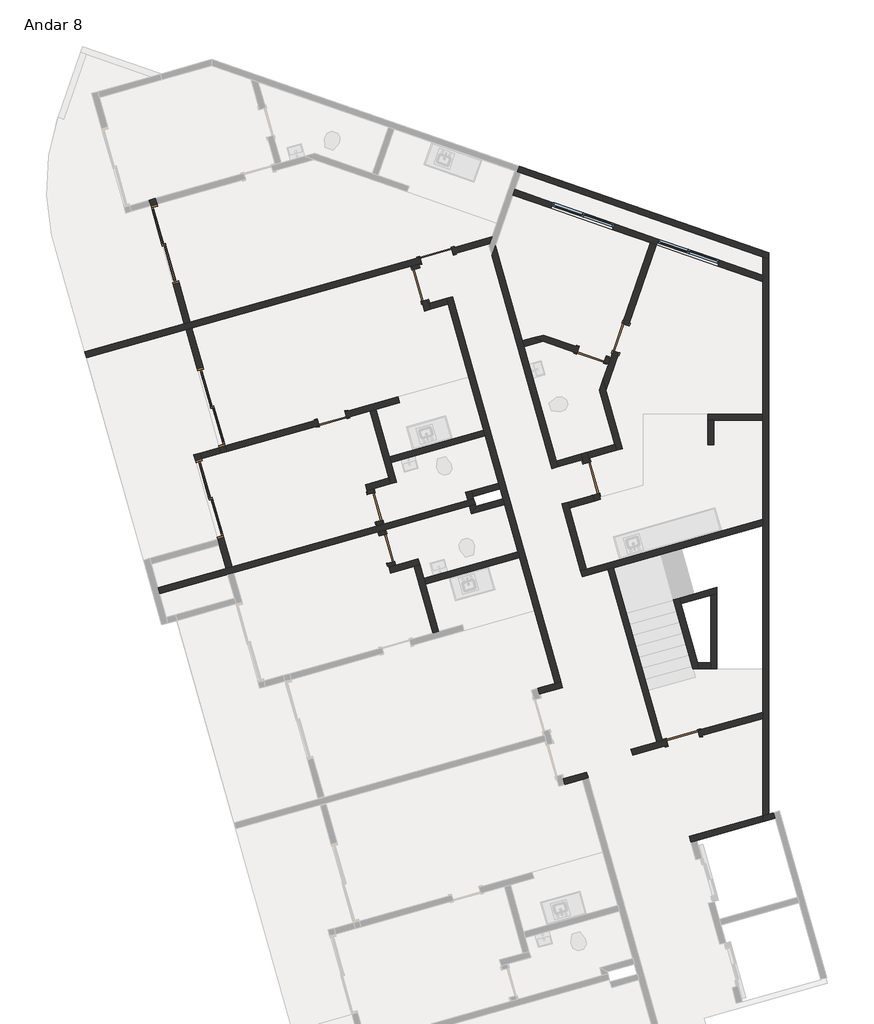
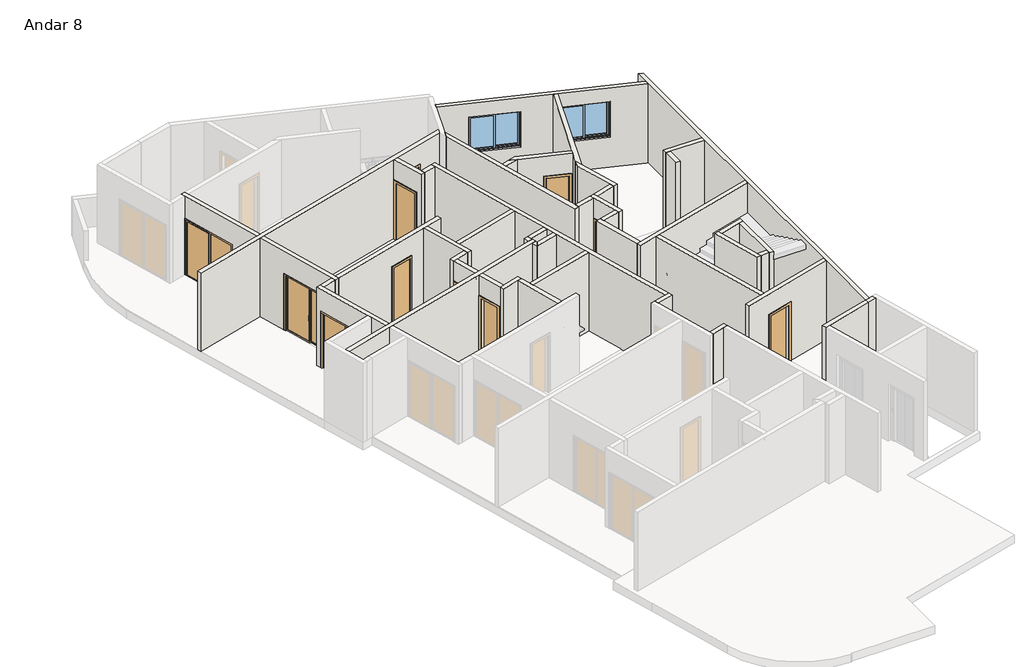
# One storey, part 2 of 3: 48 walls, 12 doors, 2 windows.
"""IFC4 building model written with IfcOpenShell, lengths in millimetres."""

from ifc_helpers import new_model, si_unit, frame, origin, place, context, project, spatial, polyline, outline, extrude, faceted_brep, transform, mapped, element, save
from components import p2_80cm_9d4be4ef, p2_80cm_083652d6, p3_70cm_ef4d15e3, p3_70cm_0a698c7c, p4_correr_200cm_eaaa0877, jx_160cm_e9e36a0c

model = new_model("IFC4")

# Units and contexts
model_context = context("Model", 3, world=origin())
ifc_project = project(units=[si_unit("LENGTHUNIT", "METRE", prefix="MILLI")], contexts=[model_context])

# Site, building, storey
site = spatial("IfcSite", under=ifc_project)
building = spatial("IfcBuilding", under=site)
storey = spatial("IfcBuildingStorey", under=building, Name="Andar 8", Elevation=73950.0)

# Doors
placement = place(None, origin())
p2_80cm_shape = p2_80cm_9d4be4ef(model_context)
element("IfcDoor", 1, ObjectType="M_Folha única1 : P2 - 80CM", at=placement, inside=storey, context=model_context, shape_type="MappedRepresentation", body=[
    mapped(p2_80cm_shape, transform((-83145.1128896, 30941.0402894, 73950.0), x_axis=(-0.9623628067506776, -0.2717679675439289, 0.0), y_axis=(0.2717679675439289, -0.9623628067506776, 0.0), z_axis=(0.0, 0.0, 1.0))),
])
element("IfcDoor", 2, ObjectType="M_Folha única1 : P2 - 80CM", at=placement, inside=storey, context=model_context, shape_type="MappedRepresentation", body=[
    mapped(p2_80cm_shape, transform((-79349.4097406, 25479.1041247, 73950.0), x_axis=(-0.27176796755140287, 0.962362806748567, 0.0), y_axis=(-0.962362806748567, -0.27176796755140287, 0.0), z_axis=(0.0, 0.0, 1.0))),
])
p2_80cm_2_shape = p2_80cm_083652d6(model_context)
element("IfcDoor", 3, ObjectType="M_Folha única1 : P2 - 80CM", at=placement, inside=storey, context=model_context, shape_type="MappedRepresentation", body=[
    mapped(p2_80cm_2_shape, transform((-83542.2049222, 30231.4150941, 73950.0), x_axis=(-0.2717679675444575, 0.9623628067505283, 0.0), y_axis=(-0.9623628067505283, -0.2717679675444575, 0.0), z_axis=(0.0, 0.0, 1.0))),
])
p3_70cm_shape = p3_70cm_ef4d15e3(model_context)
element("IfcDoor", 4, ObjectType="M_Folha única1 : P3 - 70CM", at=placement, inside=storey, context=model_context, shape_type="MappedRepresentation", body=[
    mapped(p3_70cm_shape, transform((-84650.97864, 24774.7108835, 73950.0), x_axis=(0.2717679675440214, -0.9623628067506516, 0.0), y_axis=(0.9623628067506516, 0.2717679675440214, 0.0), z_axis=(0.0, 0.0, 1.0))),
])
p3_70cm_2_shape = p3_70cm_0a698c7c(model_context)
element("IfcDoor", 5, ObjectType="M_Folha única1 : P3 - 70CM", at=placement, inside=storey, context=model_context, shape_type="MappedRepresentation", body=[
    mapped(p3_70cm_2_shape, transform((-84365.6222741, 23764.2299364, 73950.0), x_axis=(-0.2717679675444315, 0.9623628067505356, 0.0), y_axis=(-0.9623628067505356, -0.2717679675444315, 0.0), z_axis=(0.0, 0.0, 1.0))),
])
element("IfcDoor", 6, ObjectType="M_Folha única1 : P3 - 70CM", at=placement, inside=storey, context=model_context, shape_type="MappedRepresentation", body=[
    mapped(p3_70cm_2_shape, transform((-85705.4317558, 26944.8211633, 73950.0), x_axis=(0.9623628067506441, 0.2717679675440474, 0.0), y_axis=(-0.2717679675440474, 0.9623628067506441, 0.0), z_axis=(0.0, 0.0, 1.0))),
])
element("IfcDoor", 7, ObjectType="M_Folha única1 : P3 - 70CM", at=placement, inside=storey, context=model_context, shape_type="MappedRepresentation", body=[
    mapped(p3_70cm_2_shape, transform((-79346.1223746, 28509.6973665, 73950.0), x_axis=(0.9449109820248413, -0.32732741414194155, 0.0), y_axis=(0.32732741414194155, 0.9449109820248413, 0.0), z_axis=(0.0, 0.0, 1.0))),
])
element("IfcDoor", 8, ObjectType="M_Folha única1 : P3 - 70CM", at=placement, inside=storey, context=model_context, shape_type="MappedRepresentation", body=[
    mapped(p3_70cm_2_shape, transform((-78626.5662556, 28921.8732895, 73950.0), x_axis=(-0.32732741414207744, -0.9449109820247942, 0.0), y_axis=(0.9449109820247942, -0.32732741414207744, 0.0), z_axis=(0.0, 0.0, 1.0))),
])
p4_correr_200cm_shape = p4_correr_200cm_eaaa0877(model_context)
element("IfcDoor", 9, ObjectType="Porta de correr dupla envidraçada sem revestimento : P4 - CORRER - 200CM", at=placement, inside=storey, context=model_context, shape_type="MappedRepresentation", body=[
    mapped(p4_correr_200cm_shape, transform((-89799.7974026, 31217.9316171, 73950.0), x_axis=(0.27176796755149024, -0.9623628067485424, 0.0), y_axis=(0.9623628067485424, 0.27176796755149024, 0.0), z_axis=(0.0, 0.0, 1.0))),
])
element("IfcDoor", 10, ObjectType="Porta de correr dupla envidraçada sem revestimento : P4 - CORRER - 200CM", at=placement, inside=storey, context=model_context, shape_type="MappedRepresentation", body=[
    mapped(p4_correr_200cm_shape, transform((-88671.9603372, 27224.125969, 73950.0), x_axis=(-0.27176796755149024, 0.9623628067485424, 0.0), y_axis=(-0.9623628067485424, -0.27176796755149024, 0.0), z_axis=(0.0, 0.0, 1.0))),
])
element("IfcDoor", 11, ObjectType="Porta de correr dupla envidraçada sem revestimento : P4 - CORRER - 200CM", at=placement, inside=storey, context=model_context, shape_type="MappedRepresentation", body=[
    mapped(p4_correr_200cm_shape, transform((-88709.3738038, 24979.4758572, 73950.0), x_axis=(-0.2717679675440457, 0.9623628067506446, 0.0), y_axis=(-0.9623628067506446, -0.2717679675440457, 0.0), z_axis=(0.0, 0.0, 1.0))),
])
element("IfcDoor", 12, ObjectType="M_Folha única1 : PCF1 - 80CM", at=placement, inside=storey, context=model_context, shape_type="MappedRepresentation", body=[
    mapped(p2_80cm_shape, transform((-77103.5502958, 19127.1105693, 73950.0), x_axis=(-0.9623628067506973, -0.2717679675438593, 0.0), y_axis=(0.2717679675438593, -0.9623628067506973, 0.0), z_axis=(0.0, 0.0, 1.0))),
])

# Walls
element("IfcWall", 13, ObjectType="Básica .15 -  Interna", at=placement, inside=storey, context=model_context, shape_type="Brep", body=[
    faceted_brep([(-82901.0804648, 29892.9118737, 73950.0), (-82860.3152697, 29748.5574527, 73950.0), (-81990.6577736, 26668.9964711, 73950.0), (-81949.8925784, 26524.6420501, 73950.0), (-81623.7710174, 25369.806682, 73950.0), (-81583.0058223, 25225.452261, 73950.0), (-81515.0638304, 24984.8615593, 73950.0), (-81474.2986352, 24840.5071383, 73950.0), (-81148.1770742, 23685.6717702, 73950.0), (-81107.4118791, 23541.3173492, 73950.0), (-80237.7543829, 20461.7563676, 73950.0), (-80237.7543829, 20461.7563676, 76850.0), (-81107.4118791, 23541.3173492, 76850.0), (-81148.1770742, 23685.6717702, 76850.0), (-81474.2986352, 24840.5071383, 76850.0), (-81515.0638304, 24984.8615593, 76850.0), (-81583.0058223, 25225.452261, 76850.0), (-81623.7710174, 25369.806682, 76850.0), (-81949.8925784, 26524.6420501, 76850.0), (-81990.6577736, 26668.9964711, 76850.0), (-82860.3152697, 29748.5574527, 76850.0), (-82901.0804648, 29892.9118737, 76850.0), (-82756.7260438, 29933.6770689, 73950.0), (-82756.7260438, 29933.6770689, 76850.0), (-80093.3999619, 20502.5215627, 76850.0), (-80093.3999619, 20502.5215627, 73950.0)], [[[0, 1, 2, 3, 4, 5, 6, 7, 8, 9, 10, 11, 12, 13, 14, 15, 16, 17, 18, 19, 20, 21]], [[22, 23, 24, 25]], [[10, 9, 8, 7, 6, 5, 4, 3, 2, 1, 0, 22, 25]], [[21, 20, 19, 18, 17, 16, 15, 14, 13, 12, 11, 24, 23]], [[0, 21, 23, 22]], [[11, 10, 25, 24]]]),
])
element("IfcWall", 14, ObjectType="Básica .15 -  Interna", at=placement, inside=storey, context=model_context, shape_type="Brep", body=[
    faceted_brep([(-83750.2661164, 30692.2138999, 73950.0), (-83723.0893197, 30595.9776193, 73950.0), (-83723.0893197, 30595.9776193, 76050.0), (-83505.6749457, 29826.0873739, 76050.0), (-83505.6749457, 29826.0873739, 73950.0), (-83437.7329538, 29585.4966722, 73950.0), (-83437.7329538, 29585.4966722, 76850.0), (-83750.2661164, 30692.2138999, 76850.0), (-83578.7348987, 30636.7428144, 76050.0), (-83578.7348987, 30636.7428144, 73950.0), (-83605.9116954, 30732.9790951, 73950.0), (-83605.9116954, 30732.9790951, 76850.0), (-83334.1437279, 29770.6162883, 76850.0), (-83293.3785328, 29626.2618673, 76850.0), (-83293.3785328, 29626.2618673, 73950.0), (-83334.1437279, 29770.6162883, 73950.0), (-83361.3205246, 29866.852569, 73950.0), (-83361.3205246, 29866.852569, 76050.0)], [[[0, 1, 2, 3, 4, 5, 6, 7]], [[8, 9, 10, 11, 12, 13, 14, 15, 16, 17]], [[10, 9, 1, 0]], [[16, 15, 14, 5, 4]], [[7, 6, 13, 12, 11]], [[6, 5, 14, 13]], [[0, 7, 11, 10]], [[2, 1, 9, 8]], [[3, 2, 8, 17]], [[4, 3, 17, 16]]]),
])
element("IfcWall", 15, ObjectType="Básica .15 -  Interna", at=placement, inside=storey, context=model_context, shape_type="SweptSolid", body=[
    extrude(outline(polyline([(-82860.3152697, 29748.5574527), (-83293.3785328, 29626.2618673), (-83334.1437279, 29770.6162883), (-82901.0804648, 29892.9118737), (-82860.3152697, 29748.5574527)])), frame((0.0, 0.0, 73950.0), z_axis=(0.0, 0.0, 1.0), x_axis=(1.0, 0.0, 0.0)), (0.0, 0.0, 1.0), 2900.0),
])
element("IfcWall", 16, ObjectType="Básica .15 -  Interna", at=placement, inside=storey, context=model_context, shape_type="Brep", body=[
    faceted_brep([(-80093.3999619, 20502.5215627, 73950.0), (-80237.7543829, 20461.7563676, 73950.0), (-80670.817646, 20339.4607822, 73950.0), (-80670.817646, 20339.4607822, 76850.0), (-80237.7543829, 20461.7563676, 76850.0), (-80093.3999619, 20502.5215627, 76850.0), (-80052.6347668, 20358.1671417, 73950.0), (-80052.6347668, 20358.1671417, 76850.0), (-80630.0524508, 20195.1063612, 76850.0), (-80630.0524508, 20195.1063612, 73950.0)], [[[0, 1, 2, 3, 4, 5]], [[6, 7, 8, 9]], [[2, 1, 0, 6, 9]], [[5, 4, 3, 8, 7]], [[3, 2, 9, 8]], [[0, 5, 7, 6]]]),
])
element("IfcWall", 17, ObjectType="Básica .15 -  Interna", at=placement, inside=storey, context=model_context, shape_type="Brep", body=[
    faceted_brep([(-80004.9861255, 17981.6719056, 73950.0), (-79571.9228624, 18103.967491, 73950.0), (-79427.5684414, 18144.7326862, 73950.0), (-79427.5684414, 18144.7326862, 76850.0), (-79571.9228624, 18103.967491, 76850.0), (-80004.9861255, 17981.6719056, 76850.0), (-80045.7513206, 18126.0263266, 73950.0), (-80045.7513206, 18126.0263266, 76850.0), (-79468.3336366, 18289.0871072, 76850.0), (-79468.3336366, 18289.0871072, 73950.0)], [[[0, 1, 2, 3, 4, 5]], [[6, 7, 8, 9]], [[2, 1, 0, 6, 9]], [[5, 4, 3, 8, 7]], [[3, 2, 9, 8]], [[0, 5, 7, 6]]]),
])
element("IfcWall", 18, ObjectType="Básica .15 -  Interna", at=placement, inside=storey, context=model_context, shape_type="Brep", body=[
    faceted_brep([(-88305.9570711, 23274.9583478, 76850.0), (-88469.0178517, 23852.3760319, 76850.0), (-88509.7830468, 23996.7304529, 76850.0), (-89094.084177, 26065.8104874, 76850.0), (-89094.084177, 26065.8104874, 73950.0), (-89053.3189819, 25921.4560664, 73950.0), (-89053.3189819, 25921.4560664, 76050.0), (-88509.7830468, 23996.7304529, 76050.0), (-88509.7830468, 23996.7304529, 73950.0), (-88469.0178517, 23852.3760319, 73950.0), (-88305.9570711, 23274.9583478, 73950.0), (-88949.729756, 26106.5756825, 76850.0), (-88908.9645609, 25962.2212615, 76850.0), (-88161.6026501, 23315.723543, 76850.0), (-88161.6026501, 23315.723543, 73950.0), (-88365.4286258, 24037.495648, 73950.0), (-88365.4286258, 24037.495648, 76050.0), (-88908.9645609, 25962.2212615, 76050.0), (-88908.9645609, 25962.2212615, 73950.0), (-88949.729756, 26106.5756825, 73950.0)], [[[0, 1, 2, 3, 4, 5, 6, 7, 8, 9, 10]], [[11, 12, 13, 14, 15, 16, 17, 18, 19]], [[4, 19, 18, 5]], [[14, 10, 9, 8, 15]], [[3, 2, 1, 0, 13, 12, 11]], [[4, 3, 11, 19]], [[0, 10, 14, 13]], [[17, 6, 5, 18]], [[6, 17, 16, 7]], [[7, 16, 15, 8]]]),
])
element("IfcWall", 19, ObjectType="Básica .15 -  Interna", at=placement, inside=storey, context=model_context, shape_type="Brep", body=[
    faceted_brep([(-89143.3190618, 29169.2341801, 76850.0), (-88328.0151592, 26282.1457598, 76850.0), (-88287.249964, 26137.7913388, 76850.0), (-88287.249964, 26137.7913388, 73950.0), (-88328.0151592, 26282.1457598, 73950.0), (-88328.0151592, 26282.1457598, 76050.0), (-88871.5510943, 28206.8713733, 76050.0), (-88871.5510943, 28206.8713733, 73950.0), (-89143.3190618, 29169.2341801, 73950.0), (-88431.604385, 26097.0261437, 76850.0), (-88472.3695802, 26241.3805647, 76850.0), (-89287.6734828, 29128.468985, 76850.0), (-89287.6734828, 29128.468985, 73950.0), (-89015.9055153, 28166.1061782, 73950.0), (-89015.9055153, 28166.1061782, 76050.0), (-88472.3695802, 26241.3805647, 76050.0), (-88472.3695802, 26241.3805647, 73950.0), (-88431.604385, 26097.0261437, 73950.0)], [[[0, 1, 2, 3, 4, 5, 6, 7, 8]], [[9, 10, 11, 12, 13, 14, 15, 16, 17]], [[3, 17, 16, 4]], [[12, 8, 7, 13]], [[2, 1, 0, 11, 10, 9]], [[3, 2, 9, 17]], [[0, 8, 12, 11]], [[6, 14, 13, 7]], [[14, 6, 5, 15]], [[15, 5, 4, 16]]]),
])
element("IfcWall", 20, ObjectType="Básica .15 -  Interna", at=placement, inside=storey, context=model_context, shape_type="Brep", body=[
    faceted_brep([(-76904.7538909, 16570.3643175, 73950.0), (-76760.3994699, 16611.1295126, 73950.0), (-75147.8282189, 17066.5141226, 73950.0), (-75147.8282189, 17066.5141226, 76850.0), (-76760.3994699, 16611.1295126, 76850.0), (-76904.7538909, 16570.3643175, 76850.0), (-76945.5190861, 16714.7187385, 73950.0), (-76945.5190861, 16714.7187385, 76850.0), (-75147.8282189, 17222.3804954, 76850.0), (-75147.8282189, 17222.3804954, 73950.0)], [[[0, 1, 2, 3, 4, 5]], [[6, 7, 8, 9]], [[2, 1, 0, 6, 9]], [[5, 4, 3, 8, 7]], [[0, 5, 7, 6]], [[3, 2, 9, 8]]]),
])
element("IfcWall", 21, ObjectType="Básica .15 -  Interna", at=placement, inside=storey, context=model_context, shape_type="Brep", body=[
    faceted_brep([(-79570.9048554, 23078.5590693, 73950.0), (-78948.2127609, 23254.4051886, 73950.0), (-78803.8582924, 23295.1703972, 73950.0), (-75147.8282189, 24327.6207947, 73950.0), (-75147.8282189, 24327.6207947, 76850.0), (-78803.8582924, 23295.1703972, 76850.0), (-78948.2127609, 23254.4051886, 76850.0), (-79570.9048554, 23078.5590693, 76850.0), (-79611.6700506, 23222.9134903, 73950.0), (-79611.6700506, 23222.9134903, 76850.0), (-79467.3156296, 23263.6786855, 76850.0), (-75147.8282189, 24483.4871675, 76850.0), (-75147.8282189, 24483.4871675, 73950.0), (-79467.3156296, 23263.6786855, 73950.0)], [[[0, 1, 2, 3, 4, 5, 6, 7]], [[8, 9, 10, 11, 12, 13]], [[3, 2, 1, 0, 8, 13, 12]], [[7, 6, 5, 4, 11, 10, 9]], [[0, 7, 9, 8]], [[4, 3, 12, 11]]]),
])
element("IfcWall", 22, ObjectType="Básica .15 -  Interna", at=placement, inside=storey, context=model_context, shape_type="SweptSolid", body=[
    extrude(outline(polyline([(-77749.4687652, 19022.6385875), (-78948.2127609, 23254.4051886), (-78803.8582924, 23295.1703972), (-77605.1142967, 19063.4037961), (-77749.4687652, 19022.6385875)])), frame((0.0, 0.0, 73950.0), z_axis=(0.0, 0.0, 1.0), x_axis=(1.0, 0.0, 0.0)), (0.0, 0.0, 1.0), 2900.0),
])
element("IfcWall", 23, ObjectType="Básica .15 -  Interna", at=placement, inside=storey, context=model_context, shape_type="Brep", body=[
    faceted_brep([(-77508.878016, 19090.5805928, 76050.0), (-77508.878016, 19090.5805928, 73950.0), (-77605.1142967, 19063.4037961, 73950.0), (-77749.4687652, 19022.6385875, 73950.0), (-78375.5945972, 18845.8227925, 73950.0), (-78375.5945972, 18845.8227925, 76850.0), (-77749.4687652, 19022.6385875, 76850.0), (-77605.1142967, 19063.4037961, 76850.0), (-75147.8282189, 19757.3329862, 76850.0), (-75147.8282189, 19757.3329862, 73950.0), (-76738.9877706, 19307.9949669, 73950.0), (-76738.9877706, 19307.9949669, 76050.0), (-78334.829402, 18701.4683715, 73950.0), (-77468.1128209, 18946.2261718, 73950.0), (-77468.1128209, 18946.2261718, 76050.0), (-76698.2225755, 19163.6405459, 76050.0), (-76698.2225755, 19163.6405459, 73950.0), (-75147.8282189, 19601.4666134, 73950.0), (-75147.8282189, 19601.4666134, 76850.0), (-78334.829402, 18701.4683715, 76850.0)], [[[0, 1, 2, 3, 4, 5, 6, 7, 8, 9, 10, 11]], [[12, 13, 14, 15, 16, 17, 18, 19]], [[10, 9, 17, 16]], [[4, 3, 2, 1, 13, 12]], [[5, 4, 12, 19]], [[8, 7, 6, 5, 19, 18]], [[14, 13, 1, 0]], [[15, 14, 0, 11]], [[16, 15, 11, 10]], [[9, 8, 18, 17]]]),
])
element("IfcWall", 24, ObjectType="Básica .15 - Externa", at=placement, inside=storey, context=model_context, shape_type="Brep", body=[
    faceted_brep([(-75147.8282189, 30909.9128092, 76850.0), (-75147.8282189, 30909.9128092, 73950.0), (-75147.8282189, 30461.6117638, 73950.0), (-75147.8282189, 30302.8666514, 73950.0), (-75147.8282189, 27060.8243598, 73950.0), (-75147.8282189, 26910.8243598, 73950.0), (-75147.8282189, 24483.4871675, 73950.0), (-75147.8282189, 24327.6207947, 73950.0), (-75147.8282189, 19757.3329862, 73950.0), (-75147.8282189, 19601.4666134, 73950.0), (-75147.8282189, 17222.3804954, 73950.0), (-75147.8282189, 17222.3804954, 76850.0), (-75147.8282189, 19601.4666134, 76850.0), (-75147.8282189, 19757.3329862, 76850.0), (-75147.8282189, 24327.6207947, 76850.0), (-75147.8282189, 24483.4871675, 76850.0), (-75147.8282189, 26910.8243598, 76850.0), (-75147.8282189, 27060.8243598, 76850.0), (-75147.8282189, 30302.8666514, 76850.0), (-75147.8282189, 30461.6117638, 76850.0), (-74997.8282189, 30857.9511821, 73950.0), (-74997.8282189, 30857.9511821, 75250.0), (-74997.8282189, 30857.9511821, 76550.0), (-74997.8282189, 30857.9511821, 76850.0), (-74997.8282189, 17264.7399828, 76850.0), (-74997.8282189, 17264.7399828, 73950.0)], [[[0, 1, 2, 3, 4, 5, 6, 7, 8, 9, 10, 11, 12, 13, 14, 15, 16, 17, 18, 19]], [[20, 21, 22, 23, 24, 25]], [[10, 9, 8, 7, 6, 5, 4, 3, 2, 1, 20, 25]], [[0, 19, 18, 17, 16, 15, 14, 13, 12, 11, 24, 23]], [[11, 10, 25, 24]], [[0, 23, 22, 21, 20, 1]]]),
])
element("IfcWall", 25, ObjectType="Básica .15 -  Interna", at=placement, inside=storey, context=model_context, shape_type="Brep", body=[
    faceted_brep([(-80073.6755954, 24858.9302618, 73950.0), (-79611.6700506, 23222.9134903, 73950.0), (-79611.6700506, 23222.9134903, 76850.0), (-80073.6755954, 24858.9302618, 76850.0), (-79929.3211744, 24899.695457, 73950.0), (-79929.3211744, 24899.695457, 76850.0), (-79888.5559793, 24755.3410359, 76850.0), (-79467.3156296, 23263.6786855, 76850.0), (-79467.3156296, 23263.6786855, 73950.0), (-79888.5559793, 24755.3410359, 73950.0)], [[[0, 1, 2, 3]], [[4, 5, 6, 7, 8, 9]], [[1, 0, 4, 9, 8]], [[3, 2, 7, 6, 5]], [[0, 3, 5, 4]], [[2, 1, 8, 7]]]),
])
element("IfcWall", 26, ObjectType="Básica .15 -  Interna", at=placement, inside=storey, context=model_context, shape_type="Brep", body=[
    faceted_brep([(-79888.5559793, 24755.3410359, 73950.0), (-79272.1145689, 24929.4219834, 73950.0), (-79272.1145689, 24929.4219834, 76850.0), (-79888.5559793, 24755.3410359, 76850.0), (-79929.3211744, 24899.695457, 73950.0), (-79929.3211744, 24899.695457, 76850.0), (-79312.8797641, 25073.7764044, 76850.0), (-79312.8797641, 25073.7764044, 76050.0), (-79312.8797641, 25073.7764044, 73950.0)], [[[0, 1, 2, 3]], [[4, 5, 6, 7, 8]], [[1, 0, 4, 8]], [[3, 2, 6, 5]], [[0, 3, 5, 4]], [[2, 1, 8, 7, 6]]]),
])
element("IfcWall", 27, ObjectType="Básica .15 -  Interna", at=placement, inside=storey, context=model_context, shape_type="Brep", body=[
    faceted_brep([(-79598.23613, 26084.2573515, 73950.0), (-79557.4709349, 25939.9029305, 73950.0), (-79530.2941381, 25843.6666498, 73950.0), (-79530.2941381, 25843.6666498, 76050.0), (-79312.8797641, 25073.7764044, 76050.0), (-79312.8797641, 25073.7764044, 73950.0), (-79272.1145689, 24929.4219834, 73950.0), (-79272.1145689, 24929.4219834, 76850.0), (-79312.8797641, 25073.7764044, 76850.0), (-79557.4709349, 25939.9029305, 76850.0), (-79598.23613, 26084.2573515, 76850.0), (-79385.9397171, 25884.4318449, 76050.0), (-79385.9397171, 25884.4318449, 73950.0), (-79413.1165138, 25980.6681256, 73950.0), (-79453.881709, 26125.0225466, 73950.0), (-79453.881709, 26125.0225466, 76850.0), (-79413.1165138, 25980.6681256, 76850.0), (-79127.7601479, 24970.1871785, 76850.0), (-79127.7601479, 24970.1871785, 73950.0), (-79168.5253431, 25114.5415995, 73950.0), (-79168.5253431, 25114.5415995, 76050.0)], [[[0, 1, 2, 3, 4, 5, 6, 7, 8, 9, 10]], [[11, 12, 13, 14, 15, 16, 17, 18, 19, 20]], [[19, 18, 6, 5]], [[14, 13, 12, 2, 1, 0]], [[10, 9, 8, 7, 17, 16, 15]], [[7, 6, 18, 17]], [[0, 10, 15, 14]], [[3, 2, 12, 11]], [[4, 3, 11, 20]], [[5, 4, 20, 19]]]),
])
element("IfcWall", 28, ObjectType="Básica .15 -  Interna", at=placement, inside=storey, context=model_context, shape_type="Brep", body=[
    faceted_brep([(-81789.2550074, 30934.0017027, 73950.0), (-80318.2667662, 25725.0567879, 73950.0), (-80318.2667662, 25725.0567879, 76850.0), (-81789.2550074, 30934.0017027, 76850.0), (-81703.3880158, 31181.8778654, 73950.0), (-81703.3880158, 31181.8778654, 76850.0), (-81045.1503443, 28850.9797144, 76850.0), (-81004.3851492, 28706.6252933, 76850.0), (-80214.6775403, 25910.176404, 76850.0), (-80173.9123452, 25765.821983, 76850.0), (-80173.9123452, 25765.821983, 73950.0), (-80214.6775403, 25910.176404, 73950.0), (-81004.3851492, 28706.6252933, 73950.0), (-81045.1503443, 28850.9797144, 73950.0)], [[[0, 1, 2, 3]], [[4, 5, 6, 7, 8, 9, 10, 11, 12, 13]], [[1, 0, 4, 13, 12, 11, 10]], [[3, 2, 9, 8, 7, 6, 5]], [[0, 3, 5, 4]], [[2, 1, 10, 9]]]),
])
element("IfcWall", 29, ObjectType="Básica .15 -  Interna", at=placement, inside=storey, context=model_context, shape_type="Brep", body=[
    faceted_brep([(-88908.9645609, 25962.2212615, 73950.0), (-88431.604385, 26097.0261437, 73950.0), (-88431.604385, 26097.0261437, 76850.0), (-88908.9645609, 25962.2212615, 76850.0), (-88908.9645609, 25962.2212615, 76050.0), (-88949.729756, 26106.5756825, 73950.0), (-88949.729756, 26106.5756825, 76850.0), (-88472.3695802, 26241.3805647, 76850.0), (-88472.3695802, 26241.3805647, 73950.0)], [[[0, 1, 2, 3, 4]], [[5, 6, 7, 8]], [[1, 0, 5, 8]], [[3, 2, 7, 6]], [[0, 4, 3, 6, 5]], [[2, 1, 8, 7]]]),
])
element("IfcWall", 30, ObjectType="Básica .15 -  Interna", at=placement, inside=storey, context=model_context, shape_type="SweptSolid", body=[
    extrude(outline(polyline([(-79557.4709349, 25939.9029305), (-80173.9123452, 25765.821983), (-80214.6775403, 25910.176404), (-79598.23613, 26084.2573515), (-79557.4709349, 25939.9029305)])), frame((0.0, 0.0, 73950.0), z_axis=(0.0, 0.0, 1.0), x_axis=(1.0, 0.0, 0.0)), (0.0, 0.0, 1.0), 2900.0),
])
element("IfcWall", 31, ObjectType="Básica .15 -  Interna", at=placement, inside=storey, context=model_context, shape_type="Brep", body=[
    faceted_brep([(-91725.2428613, 28440.1077234, 73950.0), (-89287.6734828, 29128.468985, 73950.0), (-89143.3190618, 29169.2341801, 73950.0), (-83750.2661164, 30692.2138999, 73950.0), (-83605.9116954, 30732.9790951, 73950.0), (-83509.6754148, 30760.1558918, 73950.0), (-83509.6754148, 30760.1558918, 76050.0), (-82739.7851694, 30977.5702659, 76050.0), (-82739.7851694, 30977.5702659, 73950.0), (-81845.4155775, 31230.1371819, 73950.0), (-81845.4155775, 31230.1371819, 76850.0), (-83605.9116954, 30732.9790951, 76850.0), (-83750.2661164, 30692.2138999, 76850.0), (-89143.3190618, 29169.2341801, 76850.0), (-89287.6734828, 29128.468985, 76850.0), (-91725.2428613, 28440.1077234, 76850.0), (-83550.4406099, 30904.5103128, 76050.0), (-83550.4406099, 30904.5103128, 73950.0), (-89184.084257, 29313.5886011, 73950.0), (-89328.438678, 29272.823406, 73950.0), (-91766.0080564, 28584.4621444, 73950.0), (-91766.0080564, 28584.4621444, 76850.0), (-89328.438678, 29272.823406, 76850.0), (-89184.084257, 29313.5886011, 76850.0), (-81785.5670817, 31402.9045654, 76850.0), (-81785.5670817, 31402.9045654, 73950.0), (-82780.5503645, 31121.9246869, 73950.0), (-82780.5503645, 31121.9246869, 76050.0)], [[[0, 1, 2, 3, 4, 5, 6, 7, 8, 9, 10, 11, 12, 13, 14, 15]], [[16, 17, 18, 19, 20, 21, 22, 23, 24, 25, 26, 27]], [[26, 25, 9, 8]], [[20, 19, 18, 17, 5, 4, 3, 2, 1, 0]], [[15, 14, 13, 12, 11, 10, 24, 23, 22, 21]], [[0, 15, 21, 20]], [[10, 9, 25, 24]], [[6, 5, 17, 16]], [[7, 6, 16, 27]], [[8, 7, 27, 26]]]),
])
element("IfcWall", 32, ObjectType="Básica .15 -  Interna", at=placement, inside=storey, context=model_context, shape_type="Brep", body=[
    faceted_brep([(-90040.1533547, 32345.0314424, 76850.0), (-89999.3881596, 32200.6770214, 76850.0), (-89184.084257, 29313.5886011, 76850.0), (-89184.084257, 29313.5886011, 73950.0), (-89455.8522245, 30275.9514079, 73950.0), (-89455.8522245, 30275.9514079, 76050.0), (-89999.3881596, 32200.6770214, 76050.0), (-89999.3881596, 32200.6770214, 73950.0), (-90040.1533547, 32345.0314424, 73950.0), (-89328.438678, 29272.823406, 76850.0), (-90143.7425806, 32159.9118263, 76850.0), (-90184.5077758, 32304.2662473, 76850.0), (-90184.5077758, 32304.2662473, 73950.0), (-90143.7425806, 32159.9118262, 73950.0), (-90143.7425806, 32159.9118262, 76050.0), (-89600.2066455, 30235.1862128, 76050.0), (-89600.2066455, 30235.1862128, 73950.0), (-89328.438678, 29272.823406, 73950.0)], [[[0, 1, 2, 3, 4, 5, 6, 7, 8]], [[9, 10, 11, 12, 13, 14, 15, 16, 17]], [[12, 8, 7, 13]], [[3, 17, 16, 4]], [[2, 1, 0, 11, 10, 9]], [[0, 8, 12, 11]], [[3, 2, 9, 17]], [[15, 5, 4, 16]], [[5, 15, 14, 6]], [[6, 14, 13, 7]]]),
])
element("IfcWall", 33, ObjectType="Básica .15 -  Interna", at=placement, inside=storey, context=model_context, shape_type="Brep", body=[
    faceted_brep([(-89936.6922366, 22658.5779377, 73950.0), (-88265.191876, 23130.6039268, 73950.0), (-88120.837455, 23171.369122, 73950.0), (-84560.09507, 24176.9106019, 73950.0), (-84415.740649, 24217.675797, 73950.0), (-82192.6825654, 24845.459802, 73950.0), (-82192.6825654, 24845.459802, 76850.0), (-84415.740649, 24217.675797, 76850.0), (-84560.09507, 24176.9106019, 76850.0), (-88120.837455, 23171.369122, 76850.0), (-88265.191876, 23130.6039268, 76850.0), (-89936.6922366, 22658.5779377, 76850.0), (-89977.4574318, 22802.9323587, 73950.0), (-89977.4574318, 22802.9323587, 76850.0), (-88305.9570711, 23274.9583478, 76850.0), (-88161.6026501, 23315.723543, 76850.0), (-84600.8602651, 24321.2650229, 76850.0), (-84456.5058441, 24362.030218, 76850.0), (-82233.4477605, 24989.814223, 76850.0), (-82233.4477605, 24989.814223, 73950.0), (-84456.5058441, 24362.030218, 73950.0), (-84600.8602651, 24321.2650229, 73950.0), (-88161.6026501, 23315.723543, 73950.0), (-88305.9570711, 23274.9583478, 73950.0)], [[[0, 1, 2, 3, 4, 5, 6, 7, 8, 9, 10, 11]], [[12, 13, 14, 15, 16, 17, 18, 19, 20, 21, 22, 23]], [[5, 4, 3, 2, 1, 0, 12, 23, 22, 21, 20, 19]], [[6, 5, 19, 18]], [[11, 10, 9, 8, 7, 6, 18, 17, 16, 15, 14, 13]], [[0, 11, 13, 12]]]),
])
element("IfcWall", 34, ObjectType="Básica .15 -  Interna", at=placement, inside=storey, context=model_context, shape_type="Brep", body=[
    faceted_brep([(-81272.8781344, 32424.6503839, 73950.0), (-77897.5766162, 31255.4093243, 73950.0), (-77755.8399689, 31206.3102121, 73950.0), (-75147.8282189, 30302.8666514, 73950.0), (-75147.8282189, 30302.8666514, 76850.0), (-77755.8399689, 31206.3102121, 76850.0), (-77897.5766162, 31255.4093243, 76850.0), (-81272.8781344, 32424.6503839, 76850.0), (-78829.2985897, 31578.1679228, 75050.0), (-80341.1561609, 32101.8917854, 75050.0), (-80341.1561609, 32101.8917854, 76350.0), (-78829.2985897, 31578.1679228, 76350.0), (-76243.9823976, 30682.5863495, 75050.0), (-77755.8399689, 31206.3102121, 75050.0), (-77755.8399689, 31206.3102121, 76350.0), (-76243.9823976, 30682.5863495, 76350.0), (-81223.7790223, 32566.3870312, 73950.0), (-81223.7790223, 32566.3870312, 76850.0), (-75147.8282189, 30461.6117638, 76850.0), (-75147.8282189, 30461.6117638, 73950.0), (-78780.1994776, 31719.9045701, 75050.0), (-78780.1994776, 31719.9045701, 76350.0), (-80292.0570488, 32243.6284327, 76350.0), (-80292.0570488, 32243.6284327, 75050.0), (-76194.8832855, 30824.3229968, 75050.0), (-76194.8832855, 30824.3229968, 76350.0), (-77706.7408568, 31348.0468595, 76350.0), (-77706.7408568, 31348.0468595, 75050.0)], [[[0, 1, 2, 3, 4, 5, 6, 7], [8, 9, 10, 11], [12, 13, 14, 15]], [[16, 17, 18, 19], [20, 21, 22, 23], [24, 25, 26, 27]], [[3, 2, 1, 0, 16, 19]], [[7, 6, 5, 4, 18, 17]], [[0, 7, 17, 16]], [[21, 20, 8, 11]], [[22, 21, 11, 10]], [[23, 22, 10, 9]], [[20, 23, 9, 8]], [[25, 24, 12, 15]], [[26, 25, 15, 14]], [[27, 26, 14, 13]], [[24, 27, 13, 12]], [[4, 3, 19, 18]]]),
])
element("IfcWall", 35, ObjectType="Básica .15 - Externa", at=placement, inside=storey, context=model_context, shape_type="Brep", body=[
    faceted_brep([(-81156.3583355, 32991.3328194, 75250.0), (-81156.3583355, 32991.3328194, 73950.0), (-81156.3583355, 32991.3328194, 73650.0), (-81085.1216301, 32966.655652, 73650.0), (-74997.8282189, 30857.9511821, 73650.0), (-74997.8282189, 30857.9511821, 73950.0), (-74997.8282189, 30857.9511821, 75250.0), (-81085.1216301, 32966.655652, 75250.0), (-81107.2592234, 33133.0694667, 73650.0), (-81107.2592234, 33133.0694667, 73950.0), (-81107.2592234, 33133.0694667, 75250.0), (-81036.022518, 33108.3922993, 75250.0), (-74997.8282189, 31016.6962944, 75250.0), (-74997.8282189, 31016.6962944, 73650.0), (-81036.022518, 33108.3922993, 73650.0)], [[[0, 1, 2, 3, 4, 5, 6, 7]], [[8, 9, 10, 11, 12, 13, 14]], [[4, 3, 2, 8, 14, 13]], [[0, 7, 6, 12, 11, 10]], [[0, 10, 9, 8, 2, 1]], [[4, 13, 12, 6, 5]]]),
])
element("IfcWall", 36, ObjectType="Básica .15 -  Interna", at=placement, inside=storey, context=model_context, shape_type="SweptSolid", body=[
    extrude(outline(polyline([(-82179.094167, 24797.3416617), (-81515.0638304, 24984.8615593), (-81474.2986352, 24840.5071383), (-82282.6833929, 24612.2220455), (-82179.094167, 24797.3416617)])), frame((0.0, 0.0, 73950.0), z_axis=(0.0, 0.0, 1.0), x_axis=(1.0, 0.0, 0.0)), (0.0, 0.0, 1.0), 2900.0),
])
element("IfcWall", 37, ObjectType="Básica .15 -  Interna", at=placement, inside=storey, context=model_context, shape_type="SweptSolid", body=[
    extrude(outline(polyline([(-82192.6825654, 24845.459802), (-82179.094167, 24797.3416617), (-82282.6833929, 24612.2220455), (-82337.0369864, 24804.6946069), (-82192.6825654, 24845.459802)])), frame((0.0, 0.0, 73950.0), z_axis=(0.0, 0.0, 1.0), x_axis=(1.0, 0.0, 0.0)), (0.0, 0.0, 1.0), 2900.0),
])
element("IfcWall", 38, ObjectType="Básica .15 -  Interna", at=placement, inside=storey, context=model_context, shape_type="Brep", body=[
    faceted_brep([(-83593.7317942, 23514.6100515, 73950.0), (-84171.1494782, 23351.5492709, 73950.0), (-84315.5038992, 23310.7840758, 73950.0), (-84315.5038992, 23310.7840758, 76850.0), (-84171.1494782, 23351.5492709, 76850.0), (-83593.7317942, 23514.6100515, 76850.0), (-83552.966599, 23370.2556304, 73950.0), (-83552.966599, 23370.2556304, 76850.0), (-83697.32102, 23329.4904353, 76850.0), (-84274.7387041, 23166.4296548, 76850.0), (-84274.7387041, 23166.4296548, 73950.0), (-83697.32102, 23329.4904353, 73950.0)], [[[0, 1, 2, 3, 4, 5]], [[6, 7, 8, 9, 10, 11]], [[2, 1, 0, 6, 11, 10]], [[5, 4, 3, 9, 8, 7]], [[0, 5, 7, 6]], [[3, 2, 10, 9]]]),
])
element("IfcWall", 39, ObjectType="Básica .15 -  Interna", at=placement, inside=storey, context=model_context, shape_type="Brep", body=[
    faceted_brep([(-83090.9610542, 21734.238859, 73950.0), (-83417.0826153, 22889.0742271, 73950.0), (-83457.8478104, 23033.4286481, 73950.0), (-83552.966599, 23370.2556304, 73950.0), (-83552.966599, 23370.2556304, 76850.0), (-83457.8478104, 23033.4286481, 76850.0), (-83417.0826153, 22889.0742271, 76850.0), (-83090.9610542, 21734.238859, 76850.0), (-83235.3154752, 21693.4736638, 73950.0), (-83235.3154752, 21693.4736638, 76850.0), (-83697.32102, 23329.4904353, 76850.0), (-83697.32102, 23329.4904353, 73950.0)], [[[0, 1, 2, 3, 4, 5, 6, 7]], [[8, 9, 10, 11]], [[3, 2, 1, 0, 8, 11]], [[7, 6, 5, 4, 10, 9]], [[0, 7, 9, 8]], [[4, 3, 11, 10]]]),
])
element("IfcWall", 40, ObjectType="Básica .15 -  Interna", at=placement, inside=storey, context=model_context, shape_type="SweptSolid", body=[
    extrude(outline(polyline([(-83457.8478104, 23033.4286481), (-81148.1770742, 23685.6717702), (-81107.4118791, 23541.3173492), (-83417.0826153, 22889.0742271), (-83457.8478104, 23033.4286481)])), frame((0.0, 0.0, 73950.0), z_axis=(0.0, 0.0, 1.0), x_axis=(1.0, 0.0, 0.0)), (0.0, 0.0, 1.0), 2900.0),
])
element("IfcWall", 41, ObjectType="Básica .15 -  Interna", at=placement, inside=storey, context=model_context, shape_type="SweptSolid", body=[
    extrude(outline(polyline([(150.0, 0.0), (250.0, 0.0), (250.0, -2100.0), (950.0, -2100.0), (950.0, 0.0), (1050.0, 0.0), (1050.0, -2900.0), (150.0, -2900.0), (150.0, 0.0)])), frame((-84600.8602651, 24321.2650229, 73950.0), z_axis=(0.9623628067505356, 0.2717679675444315, 0.0), x_axis=(0.2717679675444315, -0.9623628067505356, 0.0)), (0.0, 0.0, 1.0), 150.0),
])
element("IfcWall", 42, ObjectType="Básica .15 -  Interna", at=placement, inside=storey, context=model_context, shape_type="Brep", body=[
    faceted_brep([(-84770.8044918, 27130.823522, 73950.0), (-84308.798947, 25494.8067505, 73950.0), (-84268.0337519, 25350.4523295, 73950.0), (-84268.0337519, 25350.4523295, 76850.0), (-84308.798947, 25494.8067505, 76850.0), (-84770.8044918, 27130.823522, 76850.0), (-84626.4500708, 27171.5887171, 73950.0), (-84626.4500708, 27171.5887171, 76850.0), (-84300.3285098, 26016.753349, 76850.0), (-84259.5633146, 25872.398928, 76850.0), (-84123.6793309, 25391.2175246, 76850.0), (-84123.6793309, 25391.2175246, 73950.0), (-84259.5633146, 25872.398928, 73950.0), (-84300.3285098, 26016.753349, 73950.0)], [[[0, 1, 2, 3, 4, 5]], [[6, 7, 8, 9, 10, 11, 12, 13]], [[2, 1, 0, 6, 13, 12, 11]], [[5, 4, 3, 10, 9, 8, 7]], [[3, 2, 11, 10]], [[0, 5, 7, 6]]]),
])
element("IfcWall", 43, ObjectType="Básica .15 -  Interna", at=placement, inside=storey, context=model_context, shape_type="SweptSolid", body=[
    extrude(outline(polyline([(-84300.3285098, 26016.753349), (-81990.6577736, 26668.9964711), (-81949.8925784, 26524.6420501), (-84259.5633146, 25872.398928), (-84300.3285098, 26016.753349)])), frame((0.0, 0.0, 73950.0), z_axis=(0.0, 0.0, 1.0), x_axis=(1.0, 0.0, 0.0)), (0.0, 0.0, 1.0), 2900.0),
])
element("IfcWall", 44, ObjectType="Básica .15 -  Interna", at=placement, inside=storey, context=model_context, shape_type="Brep", body=[
    faceted_brep([(-84308.798947, 25494.8067505, 73950.0), (-84886.2166311, 25331.74597, 73950.0), (-84886.2166311, 25331.74597, 76850.0), (-84308.798947, 25494.8067505, 76850.0), (-84268.0337519, 25350.4523295, 73950.0), (-84268.0337519, 25350.4523295, 76850.0), (-84701.0970149, 25228.1567441, 76850.0), (-84845.4514359, 25187.391549, 76850.0), (-84845.4514359, 25187.391549, 73950.0), (-84701.0970149, 25228.1567441, 73950.0)], [[[0, 1, 2, 3]], [[4, 5, 6, 7, 8, 9]], [[1, 0, 4, 9, 8]], [[3, 2, 7, 6, 5]], [[2, 1, 8, 7]], [[0, 3, 5, 4]]]),
])
element("IfcWall", 45, ObjectType="Básica .15 -  Interna", at=placement, inside=storey, context=model_context, shape_type="SweptSolid", body=[
    extrude(outline(polyline([(800.0, -2100.0), (800.0, 0.0), (900.0, 0.0), (900.0, -2900.0), (0.0, -2900.0), (0.0, 0.0), (100.0, 0.0), (100.0, -2100.0), (800.0, -2100.0)])), frame((-84845.4514359, 25187.391549, 73950.0), z_axis=(0.9623628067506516, 0.2717679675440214, 0.0), x_axis=(0.2717679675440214, -0.9623628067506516, 0.0)), (0.0, 0.0, 1.0), 150.0),
])
element("IfcWall", 46, ObjectType="Básica .15 -  Interna", at=placement, inside=storey, context=model_context, shape_type="Brep", body=[
    faceted_brep([(-82432.1557751, 25141.5215893, 73950.0), (-82377.8021816, 24949.0490279, 73950.0), (-82377.8021816, 24949.0490279, 76850.0), (-82432.1557751, 25141.5215893, 76850.0), (-82287.801354, 25182.2867844, 73950.0), (-82287.801354, 25182.2867844, 76850.0), (-82247.0361589, 25037.9323634, 76850.0), (-82233.4477605, 24989.814223, 76850.0), (-82233.4477605, 24989.814223, 73950.0), (-82247.0361589, 25037.9323634, 73950.0)], [[[0, 1, 2, 3]], [[4, 5, 6, 7, 8, 9]], [[1, 0, 4, 9, 8]], [[2, 1, 8, 7]], [[3, 2, 7, 6, 5]], [[0, 3, 5, 4]]]),
])
element("IfcWall", 47, ObjectType="Básica .15 -  Interna", at=placement, inside=storey, context=model_context, shape_type="SweptSolid", body=[
    extrude(outline(polyline([(-81583.0058223, 25225.452261), (-82247.0361589, 25037.9323634), (-82287.801354, 25182.2867844), (-81623.7710174, 25369.806682), (-81583.0058223, 25225.452261)])), frame((0.0, 0.0, 73950.0), z_axis=(0.0, 0.0, 1.0), x_axis=(1.0, 0.0, 0.0)), (0.0, 0.0, 1.0), 2900.0),
])
element("IfcWall", 48, ObjectType="Básica .15 -  Interna", at=placement, inside=storey, context=model_context, shape_type="Brep", body=[
    faceted_brep([(-76493.6479314, 26910.8243598, 73950.0), (-76343.6479314, 26910.8243598, 73950.0), (-75147.8282189, 26910.8243598, 73950.0), (-75147.8282189, 26910.8243598, 76850.0), (-76343.6479314, 26910.8243598, 76850.0), (-76493.6479314, 26910.8243598, 76850.0), (-76493.6479314, 27060.8243598, 73950.0), (-76493.6479314, 27060.8243598, 76850.0), (-75147.8282189, 27060.8243598, 76850.0), (-75147.8282189, 27060.8243598, 73950.0)], [[[0, 1, 2, 3, 4, 5]], [[6, 7, 8, 9]], [[2, 1, 0, 6, 9]], [[5, 4, 3, 8, 7]], [[0, 5, 7, 6]], [[3, 2, 9, 8]]]),
])
element("IfcWall", 49, ObjectType="Básica .15 -  Interna", at=placement, inside=storey, context=model_context, shape_type="SweptSolid", body=[
    extrude(outline(polyline([(-76343.6479314, 26910.8243598), (-76343.6479314, 26310.8243598), (-76493.6479314, 26310.8243598), (-76493.6479314, 26910.8243598), (-76343.6479314, 26910.8243598)])), frame((0.0, 0.0, 73950.0), z_axis=(0.0, 0.0, 1.0), x_axis=(1.0, 0.0, 0.0)), (0.0, 0.0, 1.0), 2900.0),
])
element("IfcWall", 50, ObjectType="Básica .15 -  Interna", at=placement, inside=storey, context=model_context, shape_type="Brep", body=[
    faceted_brep([(-78877.464657, 28426.7218055, 73950.0), (-78990.8539749, 28466.0010952, 73950.0), (-78990.8539749, 28466.0010952, 76050.0), (-79652.2916623, 28695.1302851, 76050.0), (-79652.2916623, 28695.1302851, 73950.0), (-80525.6718652, 28997.6786614, 73950.0), (-80525.6718652, 28997.6786614, 76850.0), (-78877.464657, 28426.7218055, 76850.0), (-79039.953087, 28324.2644479, 76050.0), (-79039.953087, 28324.2644479, 73950.0), (-78926.5637691, 28284.9851582, 73950.0), (-78926.5637691, 28284.9851582, 76850.0), (-80530.2499593, 28840.5194505, 76850.0), (-80778.126122, 28926.3864421, 76850.0), (-80778.126122, 28926.3864421, 73950.0), (-80530.2499593, 28840.5194505, 73950.0), (-79701.3907744, 28553.3936378, 73950.0), (-79701.3907744, 28553.3936378, 76050.0)], [[[0, 1, 2, 3, 4, 5, 6, 7]], [[8, 9, 10, 11, 12, 13, 14, 15, 16, 17]], [[10, 9, 1, 0]], [[16, 15, 14, 5, 4]], [[7, 6, 13, 12, 11]], [[2, 1, 9, 8]], [[3, 2, 8, 17]], [[4, 3, 17, 16]], [[6, 5, 14, 13]], [[0, 7, 11, 10]]]),
])
element("IfcWall", 51, ObjectType="Básica .15 -  Interna", at=placement, inside=storey, context=model_context, shape_type="SweptSolid", body=[
    extrude(outline(polyline([(-81045.1503443, 28850.9797144), (-80778.126122, 28926.3864421), (-80530.2499593, 28840.5194505), (-81004.3851492, 28706.6252933), (-81045.1503443, 28850.9797144)])), frame((0.0, 0.0, 73950.0), z_axis=(0.0, 0.0, 1.0), x_axis=(1.0, 0.0, 0.0)), (0.0, 0.0, 1.0), 2900.0),
])
element("IfcWall", 52, ObjectType="Básica .15 -  Interna", at=placement, inside=storey, context=model_context, shape_type="Brep", body=[
    faceted_brep([(-79146.9727346, 27648.7205404, 73950.0), (-78771.1333302, 26317.8283554, 73950.0), (-78730.3681351, 26173.4739343, 73950.0), (-78730.3681351, 26173.4739343, 76850.0), (-78771.1333302, 26317.8283554, 76850.0), (-79146.9727346, 27648.7205404, 76850.0), (-79061.105743, 27896.5967032, 73950.0), (-79061.105743, 27896.5967032, 76850.0), (-78989.8135237, 27644.1424464, 76850.0), (-78586.013714, 26214.2391295, 76850.0), (-78586.013714, 26214.2391295, 73950.0), (-78989.8135237, 27644.1424464, 73950.0)], [[[0, 1, 2, 3, 4, 5]], [[6, 7, 8, 9, 10, 11]], [[2, 1, 0, 6, 11, 10]], [[5, 4, 3, 9, 8, 7]], [[0, 5, 7, 6]], [[3, 2, 10, 9]]]),
])
element("IfcWall", 53, ObjectType="Básica .15 -  Interna", at=placement, inside=storey, context=model_context, shape_type="Brep", body=[
    faceted_brep([(-78811.9991742, 28615.7040019, 76050.0), (-78811.9991742, 28615.7040019, 73950.0), (-78877.464657, 28426.7218055, 73950.0), (-78926.5637691, 28284.9851582, 73950.0), (-79061.105743, 27896.5967032, 73950.0), (-79061.105743, 27896.5967032, 76850.0), (-78926.5637691, 28284.9851582, 76850.0), (-78877.464657, 28426.7218055, 76850.0), (-77897.5766162, 31255.4093243, 76850.0), (-77897.5766162, 31255.4093243, 73950.0), (-78582.8699843, 29277.1416893, 73950.0), (-78582.8699843, 29277.1416893, 76050.0), (-78989.8135237, 27644.1424464, 73950.0), (-78670.2625269, 28566.6048898, 73950.0), (-78670.2625269, 28566.6048898, 76050.0), (-78441.133337, 29228.0425772, 76050.0), (-78441.133337, 29228.0425772, 73950.0), (-77755.8399689, 31206.3102121, 73950.0), (-77755.8399689, 31206.3102121, 75050.0), (-77755.8399689, 31206.3102121, 76350.0), (-77755.8399689, 31206.3102121, 76850.0), (-78989.8135237, 27644.1424464, 76850.0)], [[[0, 1, 2, 3, 4, 5, 6, 7, 8, 9, 10, 11]], [[12, 13, 14, 15, 16, 17, 18, 19, 20, 21]], [[10, 9, 17, 16]], [[4, 3, 2, 1, 13, 12]], [[8, 7, 6, 5, 21, 20]], [[14, 13, 1, 0]], [[15, 14, 0, 11]], [[16, 15, 11, 10]], [[5, 4, 12, 21]], [[9, 8, 20, 19, 18, 17]]]),
])
element("IfcWall", 54, ObjectType="Básica .15 -  Interna", at=placement, inside=storey, context=model_context, shape_type="Brep", body=[
    faceted_brep([(-85348.2221759, 26967.7627414, 76050.0), (-85348.2221759, 26967.7627414, 73950.0), (-84770.8044918, 27130.823522, 73950.0), (-84626.4500708, 27171.5887171, 73950.0), (-84049.0323868, 27334.6494976, 73950.0), (-84049.0323868, 27334.6494976, 76850.0), (-84626.4500708, 27171.5887171, 76850.0), (-84770.8044918, 27130.823522, 76850.0), (-88287.249964, 26137.7913388, 76850.0), (-88287.249964, 26137.7913388, 73950.0), (-86021.8761406, 26777.5251642, 73950.0), (-86021.8761406, 26777.5251642, 76050.0), (-84089.7975819, 27479.0039186, 73950.0), (-85388.987371, 27112.1171625, 73950.0), (-85388.987371, 27112.1171625, 76050.0), (-86062.6413357, 26921.8795852, 76050.0), (-86062.6413357, 26921.8795852, 73950.0), (-88328.0151592, 26282.1457598, 73950.0), (-88328.0151592, 26282.1457598, 76850.0), (-84089.7975819, 27479.0039186, 76850.0)], [[[0, 1, 2, 3, 4, 5, 6, 7, 8, 9, 10, 11]], [[12, 13, 14, 15, 16, 17, 18, 19]], [[10, 9, 17, 16]], [[4, 3, 2, 1, 13, 12]], [[5, 4, 12, 19]], [[8, 7, 6, 5, 19, 18]], [[16, 15, 11, 10]], [[15, 14, 0, 11]], [[14, 13, 1, 0]], [[9, 8, 18, 17]]]),
])
element("IfcWall", 55, ObjectType="Básica .15 -  Interna", at=placement, inside=storey, context=model_context, shape_type="SweptSolid", body=[
    extrude(outline(polyline([(-78730.3681351, 26173.4739343), (-79413.1165138, 25980.6681256), (-79453.881709, 26125.0225466), (-78771.1333302, 26317.8283554), (-78730.3681351, 26173.4739343)])), frame((0.0, 0.0, 73950.0), z_axis=(0.0, 0.0, 1.0), x_axis=(1.0, 0.0, 0.0)), (0.0, 0.0, 1.0), 2900.0),
])
element("IfcWall", 56, ObjectType="Básica .15 -  Interna", at=placement, inside=storey, context=model_context, shape_type="Brep", body=[
    faceted_brep([(-76703.5854218, 20819.1154254, 73950.0), (-76745.9449092, 20969.1154254, 73950.0), (-77152.5348621, 22408.8989724, 73950.0), (-77193.3000572, 22553.2533934, 73950.0), (-77193.3000572, 22553.2533934, 76850.0), (-77152.5348621, 22408.8989724, 76850.0), (-76745.9449092, 20969.1154254, 76850.0), (-76703.5854218, 20819.1154254, 76850.0), (-76859.4517946, 20819.1154254, 73950.0), (-76859.4517946, 20819.1154254, 76850.0), (-77337.6544782, 22512.4881983, 76850.0), (-77337.6544782, 22512.4881983, 73950.0)], [[[0, 1, 2, 3, 4, 5, 6, 7]], [[8, 9, 10, 11]], [[3, 2, 1, 0, 8, 11]], [[7, 6, 5, 4, 10, 9]], [[4, 3, 11, 10]], [[0, 7, 9, 8]]]),
])
element("IfcWall", 57, ObjectType="Básica .15 -  Interna", at=placement, inside=storey, context=model_context, shape_type="Brep", body=[
    faceted_brep([(-77152.5348621, 22408.8989724, 73950.0), (-76425.2862396, 22614.2714979, 73950.0), (-76275.2862396, 22656.6309852, 73950.0), (-76275.2862396, 22656.6309852, 76850.0), (-76425.2862396, 22614.2714979, 76850.0), (-77152.5348621, 22408.8989724, 76850.0), (-77193.3000572, 22553.2533934, 73950.0), (-77193.3000572, 22553.2533934, 76850.0), (-76275.2862396, 22812.497358, 76850.0), (-76275.2862396, 22812.497358, 73950.0)], [[[0, 1, 2, 3, 4, 5]], [[6, 7, 8, 9]], [[2, 1, 0, 6, 9]], [[5, 4, 3, 8, 7]], [[0, 5, 7, 6]], [[3, 2, 9, 8]]]),
])
element("IfcWall", 58, ObjectType="Básica .15 -  Interna", at=placement, inside=storey, context=model_context, shape_type="Brep", body=[
    faceted_brep([(-76425.2862396, 22614.2714979, 73950.0), (-76425.2862396, 20969.1154254, 73950.0), (-76425.2862396, 20819.1154254, 73950.0), (-76425.2862396, 20819.1154254, 76850.0), (-76425.2862396, 20969.1154254, 76850.0), (-76425.2862396, 22614.2714979, 76850.0), (-76275.2862396, 22656.6309852, 73950.0), (-76275.2862396, 22656.6309852, 76850.0), (-76275.2862396, 20819.1154254, 76850.0), (-76275.2862396, 20819.1154254, 73950.0)], [[[0, 1, 2, 3, 4, 5]], [[6, 7, 8, 9]], [[2, 1, 0, 6, 9]], [[5, 4, 3, 8, 7]], [[0, 5, 7, 6]], [[3, 2, 9, 8]]]),
])
element("IfcWall", 59, ObjectType="Básica .15 -  Interna", at=placement, inside=storey, context=model_context, shape_type="SweptSolid", body=[
    extrude(outline(polyline([(-76745.9449092, 20969.1154254), (-76425.2862396, 20969.1154254), (-76425.2862396, 20819.1154254), (-76703.5854218, 20819.1154254), (-76745.9449092, 20969.1154254)])), frame((0.0, 0.0, 73950.0), z_axis=(0.0, 0.0, 1.0), x_axis=(1.0, 0.0, 0.0)), (0.0, 0.0, 1.0), 2900.0),
])
element("IfcWall", 60, ObjectType="Básica .15 - Externa", at=placement, inside=storey, context=model_context, shape_type="Brep", body=[
    faceted_brep([(-75147.8282189, 17066.5141226, 73950.0), (-74840.4856705, 17153.3066079, 73950.0), (-74840.4856705, 17153.3066079, 76850.0), (-75147.8282189, 17066.5141226, 76850.0), (-75147.8282189, 17222.3804954, 73950.0), (-75147.8282189, 17222.3804954, 76850.0), (-74997.8282189, 17264.7399828, 76850.0), (-74881.2508656, 17297.6610289, 76850.0), (-74881.2508656, 17297.6610289, 73950.0), (-74997.8282189, 17264.7399828, 73950.0)], [[[0, 1, 2, 3]], [[4, 5, 6, 7, 8, 9]], [[1, 0, 4, 9, 8]], [[3, 2, 7, 6, 5]], [[2, 1, 8, 7]], [[0, 3, 5, 4]]]),
])

# Windows
jx_160cm_shape = jx_160cm_e9e36a0c(model_context)
element("IfcWindow", 61, ObjectType="Janela de correr - 2 Painéis : JX - 160CM", at=placement, inside=storey, context=model_context, shape_type="MappedRepresentation", body=[
    mapped(jx_160cm_shape, transform((-79560.6778192, 31910.8981777, 74400.0), x_axis=(-0.9449109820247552, 0.3273274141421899, 0.0), y_axis=(-0.3273274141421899, -0.9449109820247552, 0.0), z_axis=(0.0, 0.0, 1.0))),
])
element("IfcWindow", 62, ObjectType="Janela de correr - 2 Painéis : JX - 160CM", at=placement, inside=storey, context=model_context, shape_type="MappedRepresentation", body=[
    mapped(jx_160cm_shape, transform((-76975.3616272, 31015.3166045, 74400.0), x_axis=(-0.9449109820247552, 0.3273274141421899, 0.0), y_axis=(-0.3273274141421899, -0.9449109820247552, 0.0), z_axis=(0.0, 0.0, 1.0))),
])

save(model, "model.ifc")
